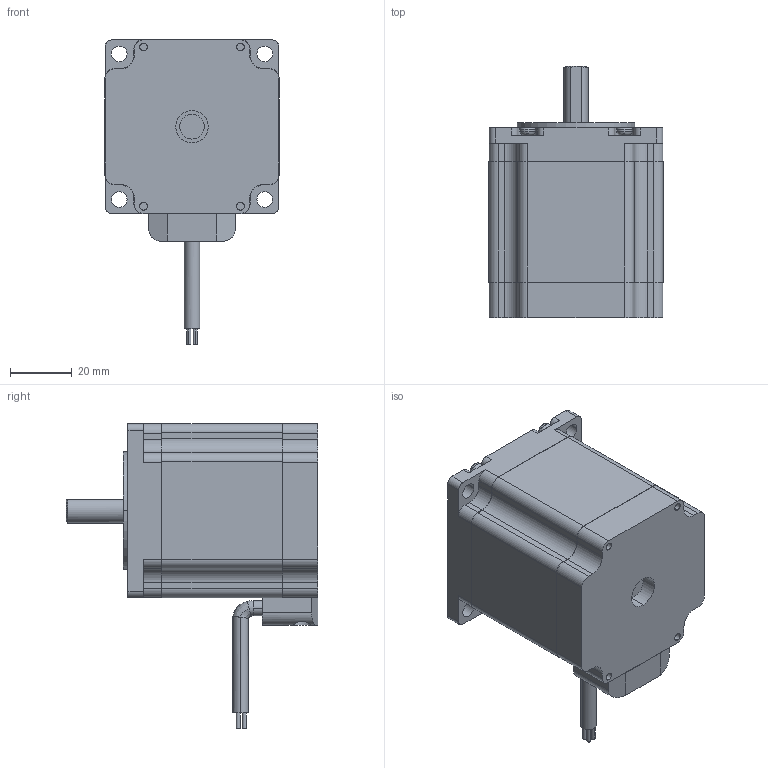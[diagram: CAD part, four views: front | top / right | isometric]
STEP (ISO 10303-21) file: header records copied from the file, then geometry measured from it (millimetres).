
FILE_DESCRIPTION (( 'STEP AP214' ), '1' );
FILE_NAME ('57BYGH262-3004A-8.STEP', '2018-09-14T05:04:35', ( 'Windows' ), ( 'Microsoft' ), 'SwSTEP 2.0', 'SolidWorks 2015', '' );
FILE_SCHEMA (( 'AUTOMOTIVE_DESIGN' ));
Length unit declared in the file: millimetre
Products named in the file (7): 57BYGH262-3004A-8; 57綴傷裔; 57隅赽39; 57ヶ傷裔; 57H262-8-20粣; M3蹟隊; 揤盄裔
Assembly tree (9 placements, depth 2):
  57BYGH262-3004A-8
    57隅赽39
    57綴傷裔
    57ヶ傷裔
    57H262-8-20粣
    M3蹟隊  x4
    揤盄裔
Bounding box: 56.4 x 81.5 x 98.73 mm (x, y, z)
Volume: 182929.1 mm3; surface area: 38853.2 mm2
Topology: 9 solids, 9 shells, 294 faces, 766 edges, 500 vertices
Faces by surface type: cylinder 153, plane 117, torus 18, bspline 4, cone 2
Entity records: 8916 total; most frequent: CARTESIAN_POINT 1463, DIRECTION 1311, ORIENTED_EDGE 1190, EDGE_CURVE 595, AXIS2_PLACEMENT_3D 498, VERTEX_POINT 392, LINE 315, VECTOR 315
